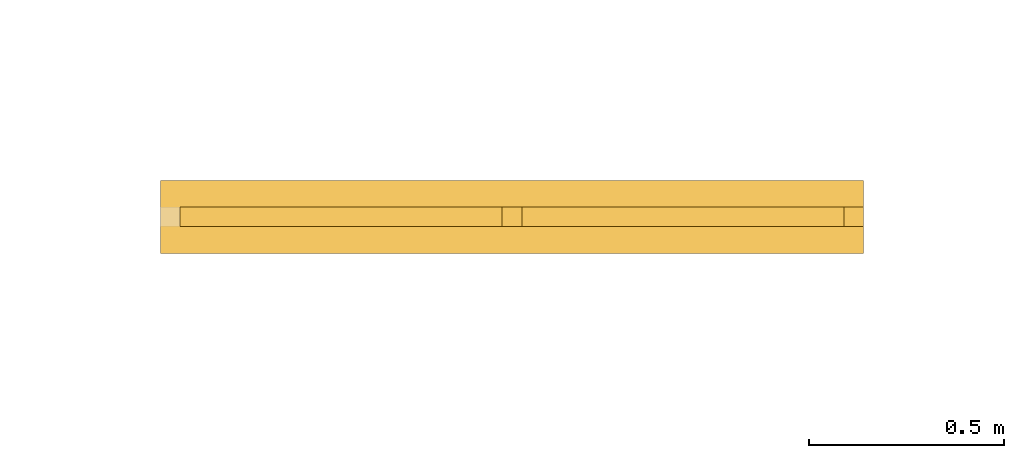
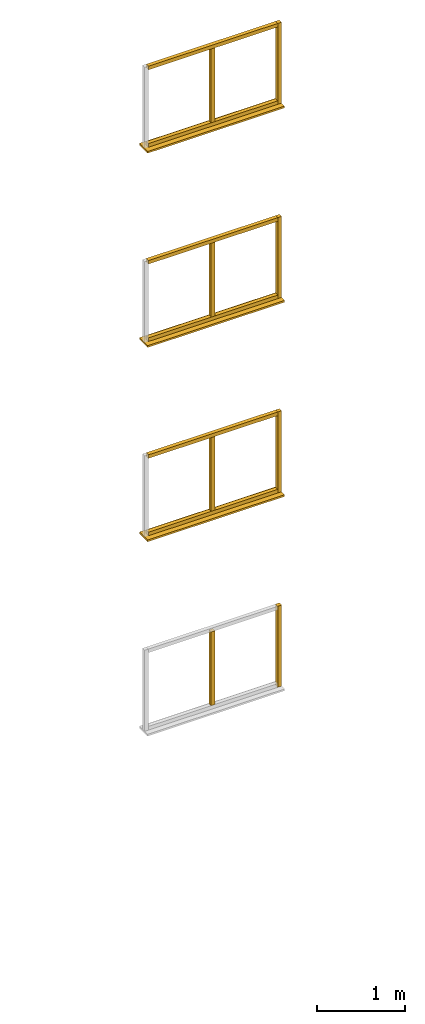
# Not in any storey, part 17 of 22: 17 windows.
"""IFC2X3 model written with IfcOpenShell, lengths in metres."""

from ifc_helpers import new_model, si_unit, frame, origin, place, context, project, faceted_brep, element, save


model = new_model("IFC2X3")

# Units and contexts
model_context = context("Model", 3, precision=1e-06, world=origin())
ifc_project = project(units=[si_unit("LENGTHUNIT", "METRE"), si_unit("PLANEANGLEUNIT", "RADIAN")], contexts=[model_context])

# Windows
placement = place(None, origin())
window_1_placement = place(placement, frame((58.64899923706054, 5.001577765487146, 1.025), z_axis=(0.0, 0.0, 1.0), x_axis=(-1.0, 0.0, 0.0)))
element("IfcWindow", 1, at=window_1_placement, Name="leftFrame", context=model_context, shape_type="Brep", body=[
    faceted_brep([(0.0, 0.05, 0.0), (0.05, 0.05, 0.0), (0.05, 0.0, 0.0), (0.0, 0.0, 0.0), (0.05, 0.0, 1.125), (0.05, 0.05, 1.125), (0.0, 0.05, 1.125), (0.0, 0.0, 1.125), (0.0, 0.05, 0.0), (0.0, 0.0, 0.0), (0.0, 0.0, 1.125), (0.0, 0.05, 1.125), (0.05, 0.05, 0.0), (0.0, 0.05, 0.0), (0.0, 0.05, 1.125), (0.05, 0.05, 1.125), (0.05, 0.0, 0.0), (0.05, 0.05, 0.0), (0.05, 0.05, 1.125), (0.05, 0.0, 1.125), (0.0, 0.0, 0.0), (0.05, 0.0, 0.0), (0.05, 0.0, 1.125), (0.0, 0.0, 1.125)], [[[0, 1, 2, 3]], [[4, 5, 6, 7]], [[8, 9, 10, 11]], [[12, 13, 14, 15]], [[16, 17, 18, 19]], [[20, 21, 22, 23]]]),
])
for number, where, z_axis, x_axis, name in (
    (2, (57.77399923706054, 5.001577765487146, 1.075), (0.0, 0.0, 1.0), (-1.0, 0.0, 0.0), "verticalBar"),
    (3, (57.77399923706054, 5.001577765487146, 3.775), (0.0, 0.0, 1.0), (-1.0, 0.0, 0.0), "verticalBar"),
):
    element("IfcWindow", number, at=place(placement, frame(where, z_axis=z_axis, x_axis=x_axis)), Name=name, context=model_context, shape_type="Brep", body=[
        faceted_brep([(0.0, 0.05, 0.0), (0.05, 0.05, 0.0), (0.05, 0.0, 0.0), (0.0, 0.0, 0.0), (0.05, 0.0, 1.025), (0.05, 0.05, 1.025), (0.0, 0.05, 1.025), (0.0, 0.0, 1.025), (0.0, 0.05, 0.0), (0.0, 0.0, 0.0), (0.0, 0.0, 1.025), (0.0, 0.05, 1.025), (0.05, 0.05, 0.0), (0.0, 0.05, 0.0), (0.0, 0.05, 1.025), (0.05, 0.05, 1.025), (0.05, 0.0, 0.0), (0.05, 0.05, 0.0), (0.05, 0.05, 1.025), (0.05, 0.0, 1.025), (0.0, 0.0, 0.0), (0.05, 0.0, 0.0), (0.05, 0.0, 1.025), (0.0, 0.0, 1.025)], [[[0, 1, 2, 3]], [[4, 5, 6, 7]], [[8, 9, 10, 11]], [[12, 13, 14, 15]], [[16, 17, 18, 19]], [[20, 21, 22, 23]]]),
    ])
window_2_placement = place(placement, frame((58.64899923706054, 5.070077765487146, 3.7), z_axis=(0.0, 0.0, 1.0), x_axis=(-1.0, 0.0, 0.0)))
element("IfcWindow", 4, at=window_2_placement, Name="windowSill", context=model_context, shape_type="Brep", body=[
    faceted_brep([(0.0, 0.187, 0.0), (1.8, 0.187, 0.0), (1.8, 0.0, 0.0), (0.0, 0.0, 0.0), (1.8, 0.0, 0.025), (1.8, 0.187, 0.025), (0.0, 0.187, 0.025), (0.0, 0.0, 0.025), (0.0, 0.187, 0.0), (0.0, 0.0, 0.0), (0.0, 0.0, 0.025), (0.0, 0.187, 0.025), (1.8, 0.187, 0.0), (0.0, 0.187, 0.0), (0.0, 0.187, 0.025), (1.8, 0.187, 0.025), (1.8, 0.0, 0.0), (1.8, 0.187, 0.0), (1.8, 0.187, 0.025), (1.8, 0.0, 0.025), (0.0, 0.0, 0.0), (1.8, 0.0, 0.0), (1.8, 0.0, 0.025), (0.0, 0.0, 0.025)], [[[0, 1, 2, 3]], [[4, 5, 6, 7]], [[8, 9, 10, 11]], [[12, 13, 14, 15]], [[16, 17, 18, 19]], [[20, 21, 22, 23]]]),
])
window_3_placement = place(placement, frame((58.64899923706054, 5.001577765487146, 3.725), z_axis=(0.0, 0.0, 1.0), x_axis=(-1.0, 0.0, 0.0)))
element("IfcWindow", 5, at=window_3_placement, Name="leftFrame", context=model_context, shape_type="Brep", body=[
    faceted_brep([(0.0, 0.05, 0.0), (0.05, 0.05, 0.0), (0.05, 0.0, 0.0), (0.0, 0.0, 0.0), (0.05, 0.0, 1.125), (0.05, 0.05, 1.125), (0.0, 0.05, 1.125), (0.0, 0.0, 1.125), (0.0, 0.05, 0.0), (0.0, 0.0, 0.0), (0.0, 0.0, 1.125), (0.0, 0.05, 1.125), (0.05, 0.05, 0.0), (0.0, 0.05, 0.0), (0.0, 0.05, 1.125), (0.05, 0.05, 1.125), (0.05, 0.0, 0.0), (0.05, 0.05, 0.0), (0.05, 0.05, 1.125), (0.05, 0.0, 1.125), (0.0, 0.0, 0.0), (0.05, 0.0, 0.0), (0.05, 0.0, 1.125), (0.0, 0.0, 1.125)], [[[0, 1, 2, 3]], [[4, 5, 6, 7]], [[8, 9, 10, 11]], [[12, 13, 14, 15]], [[16, 17, 18, 19]], [[20, 21, 22, 23]]]),
])
for number, where, z_axis, x_axis, name in (
    (6, (58.598999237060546, 5.001577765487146, 4.8), (0.0, 0.0, 1.0), (-1.0, 0.0, 0.0), "topFrame"),
    (7, (58.598999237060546, 5.001577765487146, 3.725), (0.0, 0.0, 1.0), (-1.0, 0.0, 0.0), "bottomFrame"),
    (8, (58.598999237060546, 5.001577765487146, 6.425000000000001), (0.0, 0.0, 1.0), (-1.0, 0.0, 0.0), "bottomFrame"),
    (9, (58.598999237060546, 5.001577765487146, 7.5), (0.0, 0.0, 1.0), (-1.0, 0.0, 0.0), "topFrame"),
):
    element("IfcWindow", number, at=place(placement, frame(where, z_axis=z_axis, x_axis=x_axis)), Name=name, context=model_context, shape_type="Brep", body=[
        faceted_brep([(0.0, 0.05, 0.0), (1.7, 0.05, 0.0), (1.7, 0.0, 0.0), (0.0, 0.0, 0.0), (1.7, 0.0, 0.05), (1.7, 0.05, 0.05), (0.0, 0.05, 0.05), (0.0, 0.0, 0.05), (0.0, 0.05, 0.0), (0.0, 0.0, 0.0), (0.0, 0.0, 0.05), (0.0, 0.05, 0.05), (1.7, 0.05, 0.0), (0.0, 0.05, 0.0), (0.0, 0.05, 0.05), (1.7, 0.05, 0.05), (1.7, 0.0, 0.0), (1.7, 0.05, 0.0), (1.7, 0.05, 0.05), (1.7, 0.0, 0.05), (0.0, 0.0, 0.0), (1.7, 0.0, 0.0), (1.7, 0.0, 0.05), (0.0, 0.0, 0.05)], [[[0, 1, 2, 3]], [[4, 5, 6, 7]], [[8, 9, 10, 11]], [[12, 13, 14, 15]], [[16, 17, 18, 19]], [[20, 21, 22, 23]]]),
    ])
for number, where, z_axis, x_axis, name in (
    (10, (57.77399923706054, 5.001577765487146, 6.475000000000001), (0.0, 0.0, 1.0), (-1.0, 0.0, 0.0), "verticalBar"),
    (11, (57.77399923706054, 5.001577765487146, 9.175), (0.0, 0.0, 1.0), (-1.0, 0.0, 0.0), "verticalBar"),
):
    element("IfcWindow", number, at=place(placement, frame(where, z_axis=z_axis, x_axis=x_axis)), Name=name, context=model_context, shape_type="Brep", body=[
        faceted_brep([(0.0, 0.05, 0.0), (0.05, 0.05, 0.0), (0.05, 0.0, 0.0), (0.0, 0.0, 0.0), (0.05, 0.0, 1.025), (0.05, 0.05, 1.025), (0.0, 0.05, 1.025), (0.0, 0.0, 1.025), (0.0, 0.05, 0.0), (0.0, 0.0, 0.0), (0.0, 0.0, 1.025), (0.0, 0.05, 1.025), (0.05, 0.05, 0.0), (0.0, 0.05, 0.0), (0.0, 0.05, 1.025), (0.05, 0.05, 1.025), (0.05, 0.0, 0.0), (0.05, 0.05, 0.0), (0.05, 0.05, 1.025), (0.05, 0.0, 1.025), (0.0, 0.0, 0.0), (0.05, 0.0, 0.0), (0.05, 0.0, 1.025), (0.0, 0.0, 1.025)], [[[0, 1, 2, 3]], [[4, 5, 6, 7]], [[8, 9, 10, 11]], [[12, 13, 14, 15]], [[16, 17, 18, 19]], [[20, 21, 22, 23]]]),
    ])
window_4_placement = place(placement, frame((58.64899923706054, 5.070077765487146, 9.100000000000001), z_axis=(0.0, 0.0, 1.0), x_axis=(-1.0, 0.0, 0.0)))
element("IfcWindow", 12, at=window_4_placement, Name="windowSill", context=model_context, shape_type="Brep", body=[
    faceted_brep([(0.0, 0.187, 0.0), (1.8, 0.187, 0.0), (1.8, 0.0, 0.0), (0.0, 0.0, 0.0), (1.8, 0.0, 0.025), (1.8, 0.187, 0.025), (0.0, 0.187, 0.025), (0.0, 0.0, 0.025), (0.0, 0.187, 0.0), (0.0, 0.0, 0.0), (0.0, 0.0, 0.025), (0.0, 0.187, 0.025), (1.8, 0.187, 0.0), (0.0, 0.187, 0.0), (0.0, 0.187, 0.025), (1.8, 0.187, 0.025), (1.8, 0.0, 0.0), (1.8, 0.187, 0.0), (1.8, 0.187, 0.025), (1.8, 0.0, 0.025), (0.0, 0.0, 0.0), (1.8, 0.0, 0.0), (1.8, 0.0, 0.025), (0.0, 0.0, 0.025)], [[[0, 1, 2, 3]], [[4, 5, 6, 7]], [[8, 9, 10, 11]], [[12, 13, 14, 15]], [[16, 17, 18, 19]], [[20, 21, 22, 23]]]),
])
window_5_placement = place(placement, frame((58.64899923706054, 5.001577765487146, 9.125000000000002), z_axis=(0.0, 0.0, 1.0), x_axis=(-1.0, 0.0, 0.0)))
element("IfcWindow", 13, at=window_5_placement, Name="leftFrame", context=model_context, shape_type="Brep", body=[
    faceted_brep([(0.0, 0.05, 0.0), (0.05, 0.05, 0.0), (0.05, 0.0, 0.0), (0.0, 0.0, 0.0), (0.05, 0.0, 1.125), (0.05, 0.05, 1.125), (0.0, 0.05, 1.125), (0.0, 0.0, 1.125), (0.0, 0.05, 0.0), (0.0, 0.0, 0.0), (0.0, 0.0, 1.125), (0.0, 0.05, 1.125), (0.05, 0.05, 0.0), (0.0, 0.05, 0.0), (0.0, 0.05, 1.125), (0.05, 0.05, 1.125), (0.05, 0.0, 0.0), (0.05, 0.05, 0.0), (0.05, 0.05, 1.125), (0.05, 0.0, 1.125), (0.0, 0.0, 0.0), (0.05, 0.0, 0.0), (0.05, 0.0, 1.125), (0.0, 0.0, 1.125)], [[[0, 1, 2, 3]], [[4, 5, 6, 7]], [[8, 9, 10, 11]], [[12, 13, 14, 15]], [[16, 17, 18, 19]], [[20, 21, 22, 23]]]),
])
for number, where, z_axis, x_axis, name in (
    (14, (58.598999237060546, 5.001577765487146, 10.200000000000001), (0.0, 0.0, 1.0), (-1.0, 0.0, 0.0), "topFrame"),
    (15, (58.598999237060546, 5.001577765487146, 9.125000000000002), (0.0, 0.0, 1.0), (-1.0, 0.0, 0.0), "bottomFrame"),
):
    element("IfcWindow", number, at=place(placement, frame(where, z_axis=z_axis, x_axis=x_axis)), Name=name, context=model_context, shape_type="Brep", body=[
        faceted_brep([(0.0, 0.05, 0.0), (1.7, 0.05, 0.0), (1.7, 0.0, 0.0), (0.0, 0.0, 0.0), (1.7, 0.0, 0.05), (1.7, 0.05, 0.05), (0.0, 0.05, 0.05), (0.0, 0.0, 0.05), (0.0, 0.05, 0.0), (0.0, 0.0, 0.0), (0.0, 0.0, 0.05), (0.0, 0.05, 0.05), (1.7, 0.05, 0.0), (0.0, 0.05, 0.0), (0.0, 0.05, 0.05), (1.7, 0.05, 0.05), (1.7, 0.0, 0.0), (1.7, 0.05, 0.0), (1.7, 0.05, 0.05), (1.7, 0.0, 0.05), (0.0, 0.0, 0.0), (1.7, 0.0, 0.0), (1.7, 0.0, 0.05), (0.0, 0.0, 0.05)], [[[0, 1, 2, 3]], [[4, 5, 6, 7]], [[8, 9, 10, 11]], [[12, 13, 14, 15]], [[16, 17, 18, 19]], [[20, 21, 22, 23]]]),
    ])
window_6_placement = place(placement, frame((58.64899923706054, 5.001577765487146, 6.425000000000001), z_axis=(0.0, 0.0, 1.0), x_axis=(-1.0, 0.0, 0.0)))
element("IfcWindow", 16, at=window_6_placement, Name="leftFrame", context=model_context, shape_type="Brep", body=[
    faceted_brep([(0.0, 0.05, 0.0), (0.05, 0.05, 0.0), (0.05, 0.0, 0.0), (0.0, 0.0, 0.0), (0.05, 0.0, 1.125), (0.05, 0.05, 1.125), (0.0, 0.05, 1.125), (0.0, 0.0, 1.125), (0.0, 0.05, 0.0), (0.0, 0.0, 0.0), (0.0, 0.0, 1.125), (0.0, 0.05, 1.125), (0.05, 0.05, 0.0), (0.0, 0.05, 0.0), (0.0, 0.05, 1.125), (0.05, 0.05, 1.125), (0.05, 0.0, 0.0), (0.05, 0.05, 0.0), (0.05, 0.05, 1.125), (0.05, 0.0, 1.125), (0.0, 0.0, 0.0), (0.05, 0.0, 0.0), (0.05, 0.0, 1.125), (0.0, 0.0, 1.125)], [[[0, 1, 2, 3]], [[4, 5, 6, 7]], [[8, 9, 10, 11]], [[12, 13, 14, 15]], [[16, 17, 18, 19]], [[20, 21, 22, 23]]]),
])
window_7_placement = place(placement, frame((58.64899923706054, 5.070077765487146, 6.4), z_axis=(0.0, 0.0, 1.0), x_axis=(-1.0, 0.0, 0.0)))
element("IfcWindow", 17, at=window_7_placement, Name="windowSill", context=model_context, shape_type="Brep", body=[
    faceted_brep([(0.0, 0.187, 0.0), (1.8, 0.187, 0.0), (1.8, 0.0, 0.0), (0.0, 0.0, 0.0), (1.8, 0.0, 0.025), (1.8, 0.187, 0.025), (0.0, 0.187, 0.025), (0.0, 0.0, 0.025), (0.0, 0.187, 0.0), (0.0, 0.0, 0.0), (0.0, 0.0, 0.025), (0.0, 0.187, 0.025), (1.8, 0.187, 0.0), (0.0, 0.187, 0.0), (0.0, 0.187, 0.025), (1.8, 0.187, 0.025), (1.8, 0.0, 0.0), (1.8, 0.187, 0.0), (1.8, 0.187, 0.025), (1.8, 0.0, 0.025), (0.0, 0.0, 0.0), (1.8, 0.0, 0.0), (1.8, 0.0, 0.025), (0.0, 0.0, 0.025)], [[[0, 1, 2, 3]], [[4, 5, 6, 7]], [[8, 9, 10, 11]], [[12, 13, 14, 15]], [[16, 17, 18, 19]], [[20, 21, 22, 23]]]),
])

save(model, "model.ifc")
